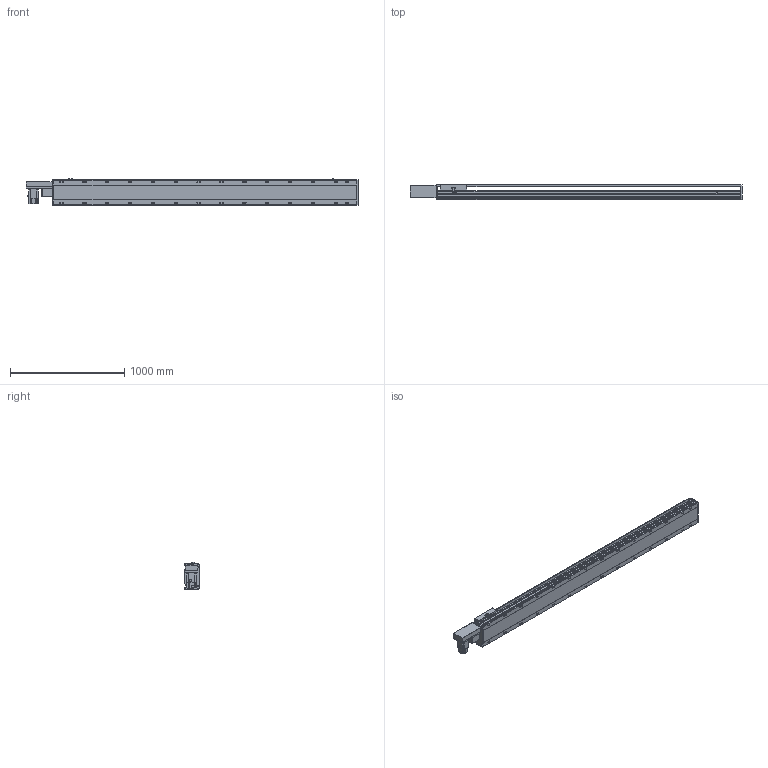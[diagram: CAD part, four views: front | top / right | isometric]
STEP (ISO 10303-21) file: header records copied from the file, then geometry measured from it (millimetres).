
FILE_DESCRIPTION(/* description */ ('STEP AP214'),/* implementation_level */ '2;1');
FILE_NAME(/* name */ 'PBS220-P40-S2300-R-T75-C1-N(0)',/* time_stamp */ '2022-06-11T10:02:58+02:00',/* author */ ('License CC BY-ND 4.0'),/* organization */ ('CADENAS'),/* preprocessor_version */ 'ST-DEVELOPER v18.102',/* originating_system */ 'PARTsolutions',/* authorisation */ ' ');
FILE_SCHEMA (('AUTOMOTIVE_DESIGN {1 0 10303 214 3 1 1}'));
Length unit declared in the file: millimetre
Products named in the file (7): PBS220-P40-S2300-R-T75-C1-N(0); PBS220_sensor; PBS220_plant; PBS220_sliser; T75-p1; PBS220T-R_motors; PBS220-S2300()_body
Assembly tree (8 placements, depth 2):
  PBS220-P40-S2300-R-T75-C1-N(0)
    PBS220_sensor  x3
    PBS220_plant
    PBS220_sliser
    T75-p1
    PBS220T-R_motors
    PBS220-S2300()_body
Bounding box: 2906 x 134 x 238.5 mm (x, y, z)
Volume: 38962591.1 mm3; surface area: 3590953.4 mm2
Topology: 8 solids, 8 shells, 986 faces, 2564 edges, 1666 vertices
Faces by surface type: plane 622, cylinder 312, cone 52
Full cylindrical faces by diameter (mm): 2.013 x4, 4.5 x14, 4.917 x4, 6 x7, 6.647 x8, 8 x10, 8.376 x28, 8.5 x28, 10 x6, 14 x28, 38 x2, 40 x1, 70 x1
Entity records: 27501 total; most frequent: CARTESIAN_POINT 4888, DIRECTION 4779, ORIENTED_EDGE 4322, EDGE_CURVE 2161, AXIS2_PLACEMENT_3D 1711, VERTEX_POINT 1512, LINE 1357, VECTOR 1357
